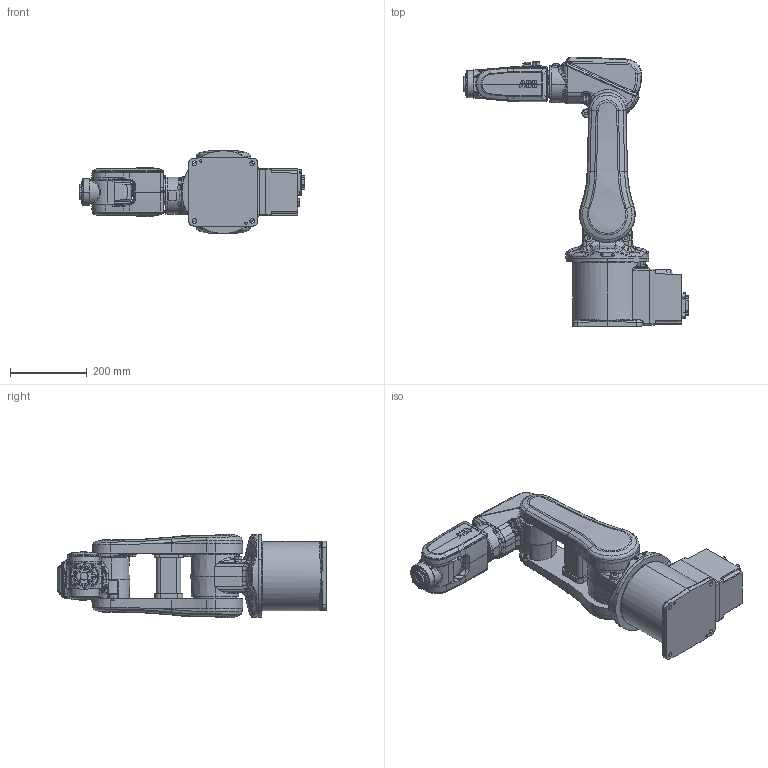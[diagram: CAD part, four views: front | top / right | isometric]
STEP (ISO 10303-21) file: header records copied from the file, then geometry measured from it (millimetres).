
FILE_DESCRIPTION(('STEP AP242'),'1');
FILE_NAME('irb_120-3_0_6.stp','2021-03-01T19:54:27',('TraceParts'),('TraceParts S.A.'),'Spatial InterOp 3D',' ',' ');
FILE_SCHEMA(('AP242_MANAGED_MODEL_BASED_3D_ENGINEERING_MIM_LF {1 0 10303 442 1 1 4}'));
Length unit declared in the file: millimetre
Products named in the file (1): irb_120-3_0_6_1
Bounding box: 585.2 x 699.58 x 217.5 mm (x, y, z)
Volume: 18143194.1 mm3; surface area: 1435605.8 mm2
Topology: 89 solids, 91 shells, 3789 faces, 9496 edges, 5981 vertices
Faces by surface type: plane 1566, cylinder 1002, bspline 871, cone 344, torus 4, sphere 2
Entity records: 161866 total; most frequent: CARTESIAN_POINT 76978, ORIENTED_EDGE 18886, DIRECTION 15759, EDGE_CURVE 9443, VERTEX_POINT 5981, AXIS2_PLACEMENT_3D 5591, LINE 4577, VECTOR 4577
